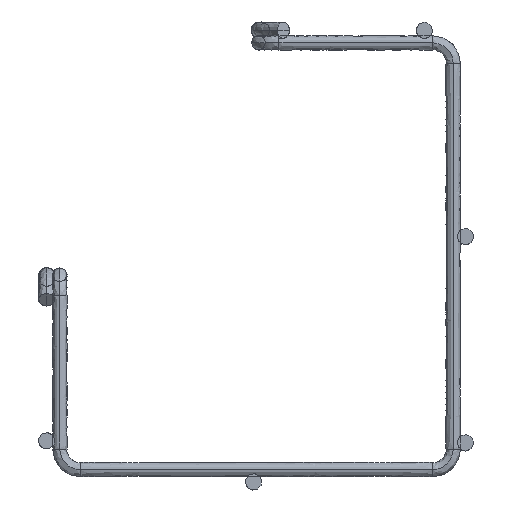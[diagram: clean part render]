
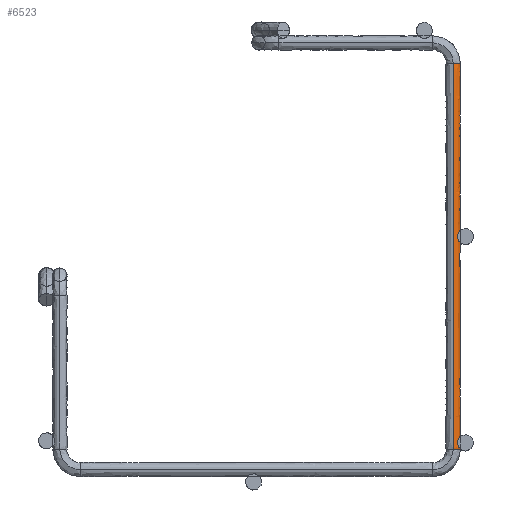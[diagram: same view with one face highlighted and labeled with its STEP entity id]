
A CAD part, front view. The second image highlights one B-rep face of the part: STEP entity #6523.
In plain terms, the highlighted free-form (B-spline) face has degree [2, 3] with [5, 4] control points.
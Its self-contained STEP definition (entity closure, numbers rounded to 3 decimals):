
#266=(
BOUNDED_SURFACE()
B_SPLINE_SURFACE(2,3,((#58089,#58090,#58091,#58092),(#58093,#58094,#58095,
#58096),(#58097,#58098,#58099,#58100),(#58101,#58102,#58103,#58104),(#58105,
#58106,#58107,#58108)),.UNSPECIFIED.,.F.,.F.,.F.)
B_SPLINE_SURFACE_WITH_KNOTS((3,2,3),(4,4),(-10.996,-8.247,
-5.498),(0.,93.5),.UNSPECIFIED.)
GEOMETRIC_REPRESENTATION_ITEM()
RATIONAL_B_SPLINE_SURFACE(((1.,1.,1.,1.),(0.707,0.707,
0.707,0.707),(1.,1.,1.,1.),(0.707,0.707,
0.707,0.707),(1.,1.,1.,1.)))
REPRESENTATION_ITEM($)
SURFACE()
);
#1559=(
BOUNDED_CURVE()
B_SPLINE_CURVE(2,(#58041,#58042,#58043,#58044,#58045),.UNSPECIFIED.,.F.,
.F.)
B_SPLINE_CURVE_WITH_KNOTS((3,2,3),(-10.996,-8.247,-5.498),
.UNSPECIFIED.)
CURVE()
GEOMETRIC_REPRESENTATION_ITEM()
RATIONAL_B_SPLINE_CURVE((1.,0.707,1.,0.707,1.))
REPRESENTATION_ITEM($)
);
#1561=(
BOUNDED_CURVE()
B_SPLINE_CURVE(3,(#58051,#58052,#58053,#58054),.UNSPECIFIED.,.F.,.F.)
B_SPLINE_CURVE_WITH_KNOTS((4,4),(0.,93.5),.UNSPECIFIED.)
CURVE()
GEOMETRIC_REPRESENTATION_ITEM()
RATIONAL_B_SPLINE_CURVE((1.,1.,1.,1.))
REPRESENTATION_ITEM($)
);
#1562=(
BOUNDED_CURVE()
B_SPLINE_CURVE(3,(#58055,#58056,#58057,#58058),.UNSPECIFIED.,.F.,.F.)
B_SPLINE_CURVE_WITH_KNOTS((4,4),(0.,93.5),.UNSPECIFIED.)
CURVE()
GEOMETRIC_REPRESENTATION_ITEM()
RATIONAL_B_SPLINE_CURVE((1.,1.,1.,1.))
REPRESENTATION_ITEM($)
);
#1564=(
BOUNDED_CURVE()
B_SPLINE_CURVE(2,(#58064,#58065,#58066,#58067,#58068),.UNSPECIFIED.,.F.,
.F.)
B_SPLINE_CURVE_WITH_KNOTS((3,2,3),(5.498,8.247,10.996),
.UNSPECIFIED.)
CURVE()
GEOMETRIC_REPRESENTATION_ITEM()
RATIONAL_B_SPLINE_CURVE((1.,0.707,1.,0.707,1.))
REPRESENTATION_ITEM($)
);
#6523=ADVANCED_FACE($,(#7303),#266,.T.);
#7303=FACE_OUTER_BOUND($,#8083,.T.);
#8083=EDGE_LOOP($,(#10780,#10781,#10782,#10783));
#10780=ORIENTED_EDGE($,*,*,#13219,.T.);
#10781=ORIENTED_EDGE($,*,*,#13216,.F.);
#10782=ORIENTED_EDGE($,*,*,#13218,.F.);
#10783=ORIENTED_EDGE($,*,*,#13221,.F.);
#13216=EDGE_CURVE($,#14890,#14893,#1559,.T.);
#13218=EDGE_CURVE($,#14891,#14890,#1561,.T.);
#13219=EDGE_CURVE($,#14892,#14893,#1562,.T.);
#13221=EDGE_CURVE($,#14892,#14891,#1564,.T.);
#14890=VERTEX_POINT($,#58109);
#14891=VERTEX_POINT($,#58110);
#14892=VERTEX_POINT($,#58111);
#14893=VERTEX_POINT($,#58112);
#58041=CARTESIAN_POINT($,(22.697,0.17,98.5));
#58042=CARTESIAN_POINT($,(24.447,0.17,98.5));
#58043=CARTESIAN_POINT($,(24.447,1.92,98.5));
#58044=CARTESIAN_POINT($,(24.447,3.67,98.5));
#58045=CARTESIAN_POINT($,(22.697,3.67,98.5));
#58051=CARTESIAN_POINT($,(22.697,0.167,5.));
#58052=CARTESIAN_POINT($,(22.697,0.168,36.167));
#58053=CARTESIAN_POINT($,(22.697,0.169,67.334));
#58054=CARTESIAN_POINT($,(22.697,0.17,98.5));
#58055=CARTESIAN_POINT($,(22.697,3.667,5.));
#58056=CARTESIAN_POINT($,(22.697,3.668,36.166));
#58057=CARTESIAN_POINT($,(22.697,3.669,67.333));
#58058=CARTESIAN_POINT($,(22.697,3.67,98.5));
#58064=CARTESIAN_POINT($,(22.697,3.667,5.));
#58065=CARTESIAN_POINT($,(24.447,3.667,5.));
#58066=CARTESIAN_POINT($,(24.447,1.917,5.));
#58067=CARTESIAN_POINT($,(24.447,0.167,5.));
#58068=CARTESIAN_POINT($,(22.697,0.167,5.));
#58089=CARTESIAN_POINT($,(22.697,0.167,5.));
#58090=CARTESIAN_POINT($,(22.697,0.168,36.167));
#58091=CARTESIAN_POINT($,(22.697,0.169,67.334));
#58092=CARTESIAN_POINT($,(22.697,0.17,98.5));
#58093=CARTESIAN_POINT($,(24.447,0.167,5.));
#58094=CARTESIAN_POINT($,(24.447,0.168,36.167));
#58095=CARTESIAN_POINT($,(24.447,0.169,67.334));
#58096=CARTESIAN_POINT($,(24.447,0.17,98.5));
#58097=CARTESIAN_POINT($,(24.447,1.917,5.));
#58098=CARTESIAN_POINT($,(24.447,1.918,36.167));
#58099=CARTESIAN_POINT($,(24.447,1.919,67.333));
#58100=CARTESIAN_POINT($,(24.447,1.92,98.5));
#58101=CARTESIAN_POINT($,(24.447,3.667,5.));
#58102=CARTESIAN_POINT($,(24.447,3.668,36.166));
#58103=CARTESIAN_POINT($,(24.447,3.669,67.333));
#58104=CARTESIAN_POINT($,(24.447,3.67,98.5));
#58105=CARTESIAN_POINT($,(22.697,3.667,5.));
#58106=CARTESIAN_POINT($,(22.697,3.668,36.166));
#58107=CARTESIAN_POINT($,(22.697,3.669,67.333));
#58108=CARTESIAN_POINT($,(22.697,3.67,98.5));
#58109=CARTESIAN_POINT($,(22.697,0.17,98.5));
#58110=CARTESIAN_POINT($,(22.697,0.167,5.));
#58111=CARTESIAN_POINT($,(22.697,3.667,5.));
#58112=CARTESIAN_POINT($,(22.697,3.67,98.5));
